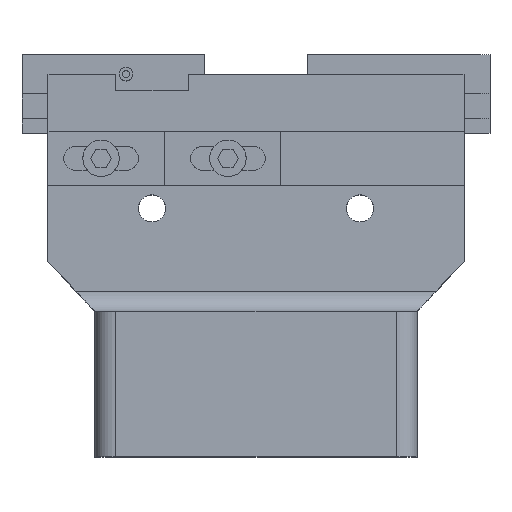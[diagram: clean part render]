
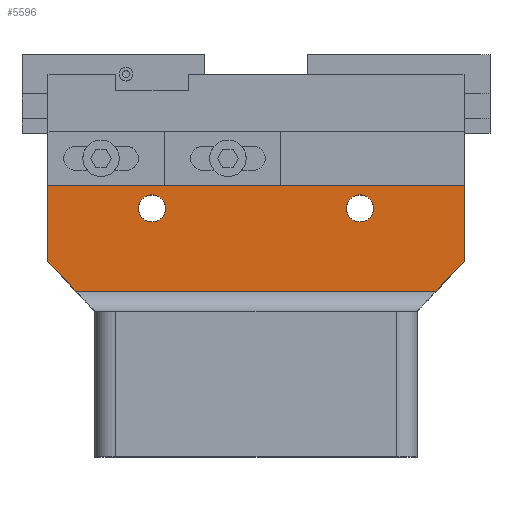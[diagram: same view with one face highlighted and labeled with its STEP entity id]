
A CAD part, top view. The second image highlights one B-rep face of the part: STEP entity #5596.
In plain terms, the highlighted planar face has unit normal (0, 0, 1) as drawn and (0, -1, 0) by its records, which use the part's own axes.
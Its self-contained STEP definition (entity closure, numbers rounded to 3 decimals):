
#155 = VECTOR ( 'NONE', #1104, 1000. ) ;
#180 = DIRECTION ( 'NONE',  ( 0., -1., 0. ) ) ;
#343 = EDGE_LOOP ( 'NONE', ( #1517, #1858 ) ) ;
#435 = VERTEX_POINT ( 'NONE', #1261 ) ;
#508 = ORIENTED_EDGE ( 'NONE', *, *, #2072, .F. ) ;
#622 = EDGE_CURVE ( 'NONE', #5267, #435, #4935, .T. ) ;
#703 = CIRCLE ( 'NONE', #7431, 1.651 ) ;
#799 = CARTESIAN_POINT ( 'NONE',  ( -6.21, -0.464, 31.534 ) ) ;
#1104 = DIRECTION ( 'NONE',  ( 0., 0., 1. ) ) ;
#1158 = DIRECTION ( 'NONE',  ( 1., 0., 0. ) ) ;
#1199 = VERTEX_POINT ( 'NONE', #3886 ) ;
#1261 = CARTESIAN_POINT ( 'NONE',  ( 6.49, -0.464, 23.406 ) ) ;
#1407 = CARTESIAN_POINT ( 'NONE',  ( -6.21, -0.464, 28.232 ) ) ;
#1412 = ORIENTED_EDGE ( 'NONE', *, *, #3873, .T. ) ;
#1467 = AXIS2_PLACEMENT_3D ( 'NONE', #1631, #5963, #2260 ) ;
#1517 = ORIENTED_EDGE ( 'NONE', *, *, #5998, .F. ) ;
#1631 = CARTESIAN_POINT ( 'NONE',  ( -31.61, -0.464, 29.883 ) ) ;
#1747 = CARTESIAN_POINT ( 'NONE',  ( -40.917, -0.464, 19.786 ) ) ;
#1858 = ORIENTED_EDGE ( 'NONE', *, *, #6643, .F. ) ;
#1866 = DIRECTION ( 'NONE',  ( 0., 1., 0. ) ) ;
#1975 = CARTESIAN_POINT ( 'NONE',  ( -31.61, -0.464, 29.883 ) ) ;
#2072 = EDGE_CURVE ( 'NONE', #3239, #4629, #4901, .T. ) ;
#2148 = CARTESIAN_POINT ( 'NONE',  ( 6.49, -0.464, 32.677 ) ) ;
#2260 = DIRECTION ( 'NONE',  ( 0., 0., 1. ) ) ;
#2279 = VERTEX_POINT ( 'NONE', #799 ) ;
#2355 = EDGE_CURVE ( 'NONE', #1199, #2565, #3393, .T. ) ;
#2499 = VERTEX_POINT ( 'NONE', #1747 ) ;
#2533 = DIRECTION ( 'NONE',  ( 0.684, 0., -0.73 ) ) ;
#2559 = FACE_BOUND ( 'NONE', #343, .T. ) ;
#2565 = VERTEX_POINT ( 'NONE', #6161 ) ;
#2593 = CARTESIAN_POINT ( 'NONE',  ( -44.31, -0.464, 23.406 ) ) ;
#2611 = DIRECTION ( 'NONE',  ( 0., 0., 1. ) ) ;
#2656 = EDGE_CURVE ( 'NONE', #2565, #1199, #7641, .T. ) ;
#2738 = VECTOR ( 'NONE', #2533, 1000. ) ;
#2924 = LINE ( 'NONE', #6861, #2738 ) ;
#2940 = AXIS2_PLACEMENT_3D ( 'NONE', #6178, #1866, #6206 ) ;
#3069 = ORIENTED_EDGE ( 'NONE', *, *, #7905, .T. ) ;
#3089 = EDGE_CURVE ( 'NONE', #435, #4629, #8003, .T. ) ;
#3239 = VERTEX_POINT ( 'NONE', #3748 ) ;
#3335 = VECTOR ( 'NONE', #6466, 1000. ) ;
#3361 = ORIENTED_EDGE ( 'NONE', *, *, #7952, .F. ) ;
#3391 = DIRECTION ( 'NONE',  ( 1., 0., 0. ) ) ;
#3393 = CIRCLE ( 'NONE', #1467, 1.651 ) ;
#3444 = DIRECTION ( 'NONE',  ( 0., -1., 0. ) ) ;
#3668 = VECTOR ( 'NONE', #3391, 1000. ) ;
#3748 = CARTESIAN_POINT ( 'NONE',  ( -44.31, -0.464, 32.677 ) ) ;
#3873 = EDGE_CURVE ( 'NONE', #2499, #5267, #6986, .T. ) ;
#3886 = CARTESIAN_POINT ( 'NONE',  ( -31.61, -0.464, 31.534 ) ) ;
#3906 = CARTESIAN_POINT ( 'NONE',  ( -6.21, -0.464, 29.883 ) ) ;
#4082 = AXIS2_PLACEMENT_3D ( 'NONE', #7145, #3444, #7765 ) ;
#4196 = FACE_BOUND ( 'NONE', #4760, .T. ) ;
#4334 = PLANE ( 'NONE',  #2940 ) ;
#4422 = VERTEX_POINT ( 'NONE', #5013 ) ;
#4513 = DIRECTION ( 'NONE',  ( 0., 0., 1. ) ) ;
#4629 = VERTEX_POINT ( 'NONE', #2148 ) ;
#4630 = AXIS2_PLACEMENT_3D ( 'NONE', #1975, #6308, #2611 ) ;
#4760 = EDGE_LOOP ( 'NONE', ( #6694, #7693 ) ) ;
#4901 = LINE ( 'NONE', #7087, #3668 ) ;
#4935 = LINE ( 'NONE', #5833, #3335 ) ;
#5013 = CARTESIAN_POINT ( 'NONE',  ( -44.31, -0.464, 23.406 ) ) ;
#5242 = CARTESIAN_POINT ( 'NONE',  ( 3.097, -0.464, 19.787 ) ) ;
#5267 = VERTEX_POINT ( 'NONE', #5242 ) ;
#5440 = CARTESIAN_POINT ( 'NONE',  ( 6.49, -0.464, 34.836 ) ) ;
#5453 = ORIENTED_EDGE ( 'NONE', *, *, #3089, .T. ) ;
#5497 = CARTESIAN_POINT ( 'NONE',  ( -44.31, -0.464, 19.786 ) ) ;
#5500 = VECTOR ( 'NONE', #1158, 1000. ) ;
#5596 = ADVANCED_FACE ( 'NONE', ( #4196, #2559, #7494 ), #4334, .F. ) ;
#5727 = EDGE_LOOP ( 'NONE', ( #5453, #508, #3361, #3069, #1412, #7238 ) ) ;
#5833 = CARTESIAN_POINT ( 'NONE',  ( 6.49, -0.464, 23.406 ) ) ;
#5963 = DIRECTION ( 'NONE',  ( 0., -1., 0. ) ) ;
#5998 = EDGE_CURVE ( 'NONE', #2279, #7024, #703, .T. ) ;
#6161 = CARTESIAN_POINT ( 'NONE',  ( -31.61, -0.464, 28.232 ) ) ;
#6178 = CARTESIAN_POINT ( 'NONE',  ( -44.31, -0.464, 23.406 ) ) ;
#6206 = DIRECTION ( 'NONE',  ( 0., 0., 1. ) ) ;
#6308 = DIRECTION ( 'NONE',  ( 0., -1., 0. ) ) ;
#6466 = DIRECTION ( 'NONE',  ( 0.684, 0., 0.73 ) ) ;
#6643 = EDGE_CURVE ( 'NONE', #7024, #2279, #7383, .T. ) ;
#6694 = ORIENTED_EDGE ( 'NONE', *, *, #2355, .F. ) ;
#6861 = CARTESIAN_POINT ( 'NONE',  ( -44.31, -0.464, 23.406 ) ) ;
#6919 = DIRECTION ( 'NONE',  ( 0., 0., 1. ) ) ;
#6986 = LINE ( 'NONE', #5497, #5500 ) ;
#7024 = VERTEX_POINT ( 'NONE', #1407 ) ;
#7087 = CARTESIAN_POINT ( 'NONE',  ( -44.31, -0.464, 32.677 ) ) ;
#7145 = CARTESIAN_POINT ( 'NONE',  ( -6.21, -0.464, 29.883 ) ) ;
#7238 = ORIENTED_EDGE ( 'NONE', *, *, #622, .T. ) ;
#7269 = VECTOR ( 'NONE', #6919, 1000. ) ;
#7383 = CIRCLE ( 'NONE', #4082, 1.651 ) ;
#7431 = AXIS2_PLACEMENT_3D ( 'NONE', #3906, #180, #4513 ) ;
#7494 = FACE_OUTER_BOUND ( 'NONE', #5727, .T. ) ;
#7641 = CIRCLE ( 'NONE', #4630, 1.651 ) ;
#7671 = LINE ( 'NONE', #2593, #7269 ) ;
#7693 = ORIENTED_EDGE ( 'NONE', *, *, #2656, .F. ) ;
#7765 = DIRECTION ( 'NONE',  ( 0., 0., 1. ) ) ;
#7905 = EDGE_CURVE ( 'NONE', #4422, #2499, #2924, .T. ) ;
#7952 = EDGE_CURVE ( 'NONE', #4422, #3239, #7671, .T. ) ;
#8003 = LINE ( 'NONE', #5440, #155 ) ;
